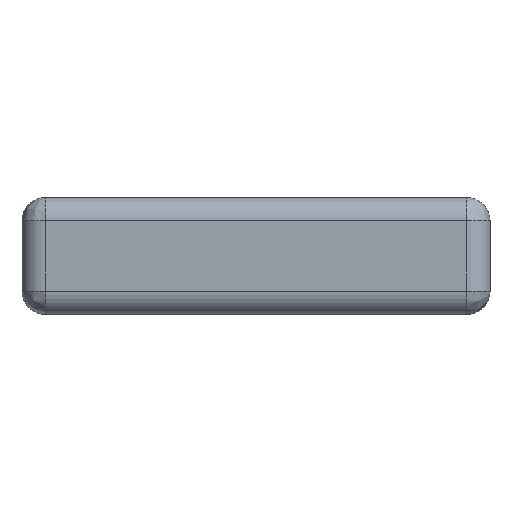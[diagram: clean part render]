
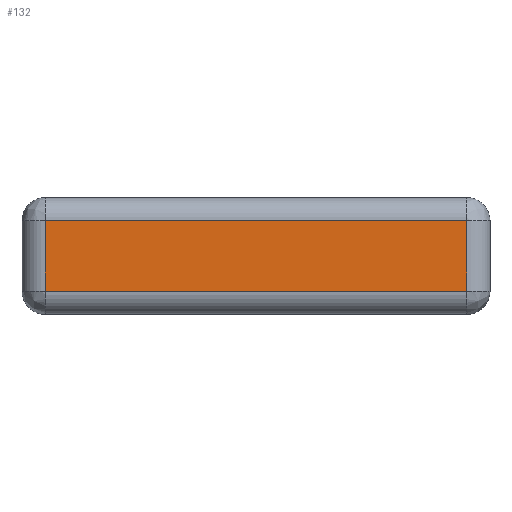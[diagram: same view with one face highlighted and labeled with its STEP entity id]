
A CAD part, top view. The second image highlights one B-rep face of the part: STEP entity #132.
In plain terms, the highlighted planar face has unit normal (0, 0, 1).
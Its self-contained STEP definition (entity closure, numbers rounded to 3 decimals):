
#16 = CARTESIAN_POINT ( 'NONE',  ( -18., 3., 0. ) ) ;
#107 = VECTOR ( 'NONE', #2356, 1000. ) ;
#131 = DIRECTION ( 'NONE',  ( 0., 0., 1. ) ) ;
#132 = ADVANCED_FACE ( 'NONE', ( #1023 ), #339, .T. ) ;
#162 = EDGE_CURVE ( 'NONE', #739, #2410, #612, .T. ) ;
#192 = LINE ( 'NONE', #1472, #856 ) ;
#322 = DIRECTION ( 'NONE',  ( 0., -1., 0. ) ) ;
#339 = PLANE ( 'NONE',  #958 ) ;
#373 = ORIENTED_EDGE ( 'NONE', *, *, #1927, .F. ) ;
#612 = LINE ( 'NONE', #1485, #107 ) ;
#723 = DIRECTION ( 'NONE',  ( 0., -1., 0. ) ) ;
#739 = VERTEX_POINT ( 'NONE', #2196 ) ;
#746 = CARTESIAN_POINT ( 'NONE',  ( 18., 3., 0. ) ) ;
#765 = CARTESIAN_POINT ( 'NONE',  ( 0., 0., 0. ) ) ;
#856 = VECTOR ( 'NONE', #2311, 1000. ) ;
#887 = VERTEX_POINT ( 'NONE', #1112 ) ;
#915 = EDGE_CURVE ( 'NONE', #2430, #887, #2015, .T. ) ;
#948 = DIRECTION ( 'NONE',  ( 1., 0., 0. ) ) ;
#958 = AXIS2_PLACEMENT_3D ( 'NONE', #765, #131, #322 ) ;
#977 = ORIENTED_EDGE ( 'NONE', *, *, #2153, .F. ) ;
#1023 = FACE_OUTER_BOUND ( 'NONE', #2276, .T. ) ;
#1112 = CARTESIAN_POINT ( 'NONE',  ( 18., -3., 0. ) ) ;
#1338 = VECTOR ( 'NONE', #948, 1000. ) ;
#1472 = CARTESIAN_POINT ( 'NONE',  ( 18., -3., 0. ) ) ;
#1485 = CARTESIAN_POINT ( 'NONE',  ( -18., -3., 0. ) ) ;
#1539 = CARTESIAN_POINT ( 'NONE',  ( 18., 3., 0. ) ) ;
#1635 = VECTOR ( 'NONE', #723, 1000. ) ;
#1824 = ORIENTED_EDGE ( 'NONE', *, *, #162, .F. ) ;
#1927 = EDGE_CURVE ( 'NONE', #887, #739, #192, .T. ) ;
#2015 = LINE ( 'NONE', #2455, #1635 ) ;
#2093 = ORIENTED_EDGE ( 'NONE', *, *, #915, .F. ) ;
#2153 = EDGE_CURVE ( 'NONE', #2410, #2430, #2525, .T. ) ;
#2196 = CARTESIAN_POINT ( 'NONE',  ( -18., -3., 0. ) ) ;
#2276 = EDGE_LOOP ( 'NONE', ( #2093, #977, #1824, #373 ) ) ;
#2311 = DIRECTION ( 'NONE',  ( -1., 0., 0. ) ) ;
#2356 = DIRECTION ( 'NONE',  ( 0., 1., 0. ) ) ;
#2410 = VERTEX_POINT ( 'NONE', #16 ) ;
#2430 = VERTEX_POINT ( 'NONE', #1539 ) ;
#2455 = CARTESIAN_POINT ( 'NONE',  ( 18., -3., 0. ) ) ;
#2525 = LINE ( 'NONE', #746, #1338 ) ;
